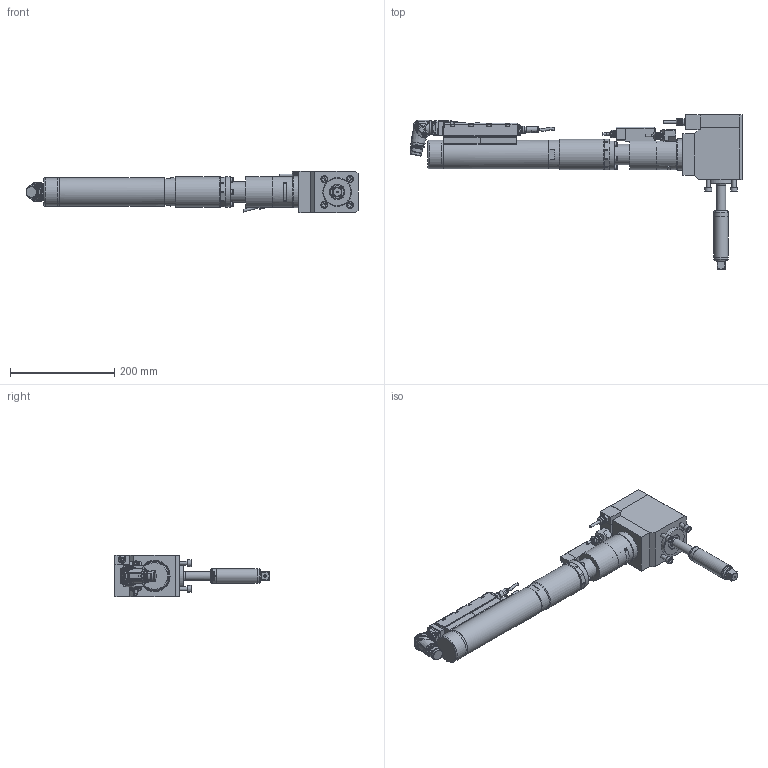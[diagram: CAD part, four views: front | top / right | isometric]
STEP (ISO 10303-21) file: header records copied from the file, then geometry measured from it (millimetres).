
FILE_DESCRIPTION (( 'STEP AP214' ), '1' );
FILE_NAME ('70082543_ESX222DRX270WX2AWDX250-270.STEP', '2016-11-15T12:58:33', ( 'admin' ), ( '' ), 'SwSTEP 2.0', 'SolidWorks 2014', '' );
FILE_SCHEMA (( 'AUTOMOTIVE_DESIGN' ));
Length unit declared in the file: millimetre
Products named in the file (12): 7004768_3; 70082403; 70082361; 70082323; 70082306_ESX222_Standard_Winkel_2; 70082293_2; 70057493_Standard_winkel; 70057493_4; 70057493_3; 70057493_2; 70082306; 70082543_ESX222DRX270WX2AWDX250-270
Assembly tree (12 placements, depth 4):
  70082543_ESX222DRX270WX2AWDX250-270
    70082306_ESX222_Standard_Winkel_2
      70082306
      70057493_Standard_winkel
        70057493_2
        70057493_3
        70057493_4
      70082293_2  x2
    70082323
    70082361
    70082403
    7004768_3
Bounding box: 637.96 x 296.1 x 80 mm (x, y, z)
Volume: 2697042.1 mm3; surface area: 289356.8 mm2
Topology: 14 solids, 39 shells, 3281 faces, 8440 edges, 5465 vertices
Faces by surface type: plane 1638, cylinder 900, cone 386, bspline 271, torus 79, sphere 7
Full cylindrical faces by diameter (mm): 0.5 x14, 0.57 x14, 1.6 x1, 2 x3, 3 x4, 4.2 x11, 4.5 x1, 4.9 x7, 5 x45, 5.5 x17, 6 x2, 8 x4, 8.459 x2, 8.5 x5, 9 x7, 11.08 x3, 12 x1, 12.3 x3, 13 x4, 14 x6, 14.5 x2, 16.84 x1, 17.3 x1, 17.4 x1, 17.5 x2, 20 x2, 21.15 x1, 21.5 x1, 21.7 x1, 22 x1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
Entity records: 108159 total; most frequent: CARTESIAN_POINT 34298, ORIENTED_EDGE 15172, DIRECTION 13580, EDGE_CURVE 7586, VERTEX_POINT 5116, AXIS2_PLACEMENT_3D 5035, EDGE_LOOP 3782, VECTOR 3510
